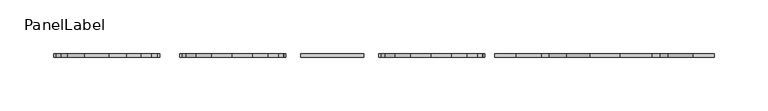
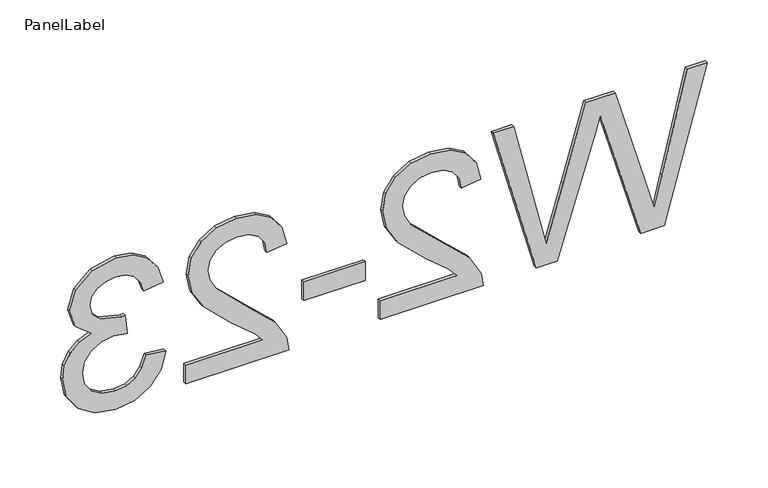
"""IFC4 building model written with IfcOpenShell, lengths in millimetres: fastener geometry, PanelLabel : Miranda."""

import ifcopenshell
import ifcopenshell.guid

model = None  # the IFC model being written
_history = None  # IfcOwnerHistory: only IFC2X3 demands one
_inside = {}  # id of a spatial element -> (the spatial element, [elements in it])
_under = {}  # id of a project, library or spatial element -> (it, [spatial elements below it])
_declared = {}  # id of a project -> (the project, [libraries it declares])
_typed = {}  # id of a type object -> (the type object, [elements of that type])
_made_of = {}  # id of a material, layer set ... -> (it, [elements and type objects made of it])


def new_model(schema):
    """Start an empty IFC model of exactly this schema.

    Asked for "IFC4X3", IfcOpenShell would pick the latest addendum, in which some entities
    have other attributes; the version numbers below select the first issue.
    IFC2X3 requires an IfcOwnerHistory on every rooted entity: one is made here for all.
    """
    global model, _history
    if schema == "IFC4X3":
        model = ifcopenshell.file(schema_version=(4, 3, 0, 0))
    else:
        model = ifcopenshell.file(schema=schema)
    _inside.clear()
    _under.clear()
    _declared.clear()
    _typed.clear()
    _made_of.clear()
    _history = None
    if model.schema == "IFC2X3":
        org = make("IfcOrganization", Name="unknown")
        user = make(
            "IfcPersonAndOrganization",
            ThePerson=make("IfcPerson", FamilyName="unknown"),
            TheOrganization=org,
        )
        app = make(
            "IfcApplication",
            ApplicationDeveloper=org,
            Version="unknown",
            ApplicationFullName="unknown",
            ApplicationIdentifier="unknown",
        )
        _history = make(
            "IfcOwnerHistory",
            OwningUser=user,
            OwningApplication=app,
            ChangeAction="ADDED",
            CreationDate=0,
        )
    return model


def make(cls, **values):
    """One entity of the class cls with the attributes given. An attribute that is None is left unset."""
    return model.create_entity(
        cls, **{name: value for name, value in values.items() if value is not None}
    )


def rooted(cls, **values):
    """An entity with a GlobalId (a new one), such as an element, a storey or a relation."""
    return make(cls, GlobalId=ifcopenshell.guid.new(), OwnerHistory=_history, **values)


def si_unit(unit_type, name, prefix=None):
    """IfcSIUnit, for example si_unit("LENGTHUNIT", "METRE", prefix="MILLI")."""
    return make("IfcSIUnit", UnitType=unit_type, Prefix=prefix, Name=name)


def assignment(units):
    """IfcUnitAssignment: the units of a project."""
    return None if units is None else make("IfcUnitAssignment", Units=units)


def point(xyz):
    """IfcCartesianPoint."""
    return None if xyz is None else make("IfcCartesianPoint", Coordinates=xyz)


def direction(xyz):
    """IfcDirection."""
    return None if xyz is None else make("IfcDirection", DirectionRatios=xyz)


def frame(location, z_axis=None, x_axis=None):
    """IfcAxis2Placement3D, a coordinate frame: its origin and axes. An axis left out is left unset."""
    return make(
        "IfcAxis2Placement3D",
        Location=point(location),
        Axis=direction(z_axis),
        RefDirection=direction(x_axis),
    )


def origin():
    """The frame at (0, 0, 0) with its axes left unset."""
    return frame((0.0, 0.0, 0.0))


def place(relative_to, where):
    """IfcLocalPlacement: puts the frame where relative to a parent placement (None: the world)."""
    return make(
        "IfcLocalPlacement", PlacementRelTo=relative_to, RelativePlacement=where
    )


def context(
    kind, dimensions, precision=None, world=None, true_north=None, identifier=None
):
    """IfcGeometricRepresentationContext, for example the 3D "Model" context."""
    return make(
        "IfcGeometricRepresentationContext",
        ContextIdentifier=identifier,
        ContextType=kind,
        CoordinateSpaceDimension=dimensions,
        Precision=precision,
        WorldCoordinateSystem=world,
        TrueNorth=true_north,
    )


def project(units=None, contexts=None):
    """IfcProject with its units and contexts."""
    return rooted(
        "IfcProject",
        Name="project",
        RepresentationContexts=contexts,
        UnitsInContext=assignment(units),
    )


def spatial(cls, under=None, at=None, **own):
    """A site, building, storey or space (cls), placed at a placement, below another one or the project."""
    s = rooted(cls, ObjectPlacement=at, **own)
    if under is not None:
        _under.setdefault(under.id(), (under, []))[1].append(s)
    return s


def polyline(points):
    """IfcPolyline through the points."""
    return make("IfcPolyline", Points=[point(p) for p in points])


def outline(outer, holes=None, kind="AREA"):
    """IfcArbitraryClosedProfileDef: a profile drawn as a closed curve; with holes, ...WithVoids."""
    if holes is None:
        return make("IfcArbitraryClosedProfileDef", ProfileType=kind, OuterCurve=outer)
    return make(
        "IfcArbitraryProfileDefWithVoids",
        ProfileType=kind,
        OuterCurve=outer,
        InnerCurves=holes,
    )


def extrude(swept, where, along, depth):
    """IfcExtrudedAreaSolid: the profile swept, set in the frame where, extruded along a direction by depth."""
    return make(
        "IfcExtrudedAreaSolid",
        SweptArea=swept,
        Position=where,
        ExtrudedDirection=direction(along),
        Depth=depth,
    )


def shape(context_of_items, identifier, shape_type, items):
    """IfcShapeRepresentation: the items that make up one representation, for example the "Body"."""
    return make(
        "IfcShapeRepresentation",
        ContextOfItems=context_of_items,
        RepresentationIdentifier=identifier,
        RepresentationType=shape_type,
        Items=items,
    )


def source(mapping_origin, context_of_items, identifier, shape_type, items):
    """IfcRepresentationMap: a shape defined once, which mapped items show again and again."""
    return make(
        "IfcRepresentationMap",
        MappingOrigin=mapping_origin,
        MappedRepresentation=shape(context_of_items, identifier, shape_type, items),
    )


def transform(
    local_origin,
    x_axis=None,
    y_axis=None,
    z_axis=None,
    scale=None,
    scale2=None,
    scale3=None,
    uniform=True,
):
    """IfcCartesianTransformationOperator3D, or its non-uniform kind. x_axis, y_axis, z_axis: its Axis1, 2, 3."""
    if uniform:
        return make(
            "IfcCartesianTransformationOperator3D",
            Axis1=direction(x_axis),
            Axis2=direction(y_axis),
            LocalOrigin=point(local_origin),
            Scale=scale,
            Axis3=direction(z_axis),
        )
    return make(
        "IfcCartesianTransformationOperator3DnonUniform",
        Axis1=direction(x_axis),
        Axis2=direction(y_axis),
        LocalOrigin=point(local_origin),
        Scale=scale,
        Axis3=direction(z_axis),
        Scale2=scale2,
        Scale3=scale3,
    )


def mapped(mapping_source, mapping_target):
    """IfcMappedItem: shows the shape of a source again, moved by a transform."""
    return make(
        "IfcMappedItem", MappingSource=mapping_source, MappingTarget=mapping_target
    )


def made_of(thing, what):
    """Note that an element or type object is made of a material, layer set ...; save() writes the relation."""
    if what is not None:
        _made_of.setdefault(what.id(), (what, []))[1].append(thing)
    return thing


def element(
    cls,
    number,
    at=None,
    inside=None,
    cuts=None,
    type_object=None,
    material=None,
    context=None,
    identifier="Body",
    shape_type=None,
    held_by="IfcProductDefinitionShape",
    body=None,
    shapes=None,
    **own,
):
    """One element of the class cls, such as IfcWall. Its Tag is "e" and its number.

    at: its placement. inside: the storey or other place that contains it. cuts: it is an
    opening in that element (IfcRelVoidsElement). A single representation is given by context,
    identifier, shape_type and body (its items); several are given by shapes. held_by: the class
    of the entity that holds the representations. save() writes the other relations.
    """
    e = rooted(cls, Tag="e%d" % number, ObjectPlacement=at, **own)
    if body is not None:
        shapes = [shape(context, identifier, shape_type, body)]
    if shapes is not None:
        e.Representation = make(held_by, Representations=shapes)
    if inside is not None:
        _inside.setdefault(inside.id(), (inside, []))[1].append(e)
    if cuts is not None:
        rooted(
            "IfcRelVoidsElement", RelatingBuildingElement=cuts, RelatedOpeningElement=e
        )
    if type_object is not None:
        _typed.setdefault(type_object.id(), (type_object, []))[1].append(e)
    return made_of(e, material)


def aggregate(whole, parts):
    """IfcRelAggregates: a whole, such as a stair, and the parts it consists of."""
    return rooted("IfcRelAggregates", RelatingObject=whole, RelatedObjects=parts)


def save(model, path):
    """Write the relations noted so far, then the file.

    IfcRelAggregates (storeys below a building ...), IfcRelContainedInSpatialStructure (elements
    in a storey), IfcRelDefinesByType, IfcRelAssociatesMaterial and IfcRelDeclares: one each for
    every whole, place, type object, material and project.
    """
    for whole, parts in _under.values():
        aggregate(whole, parts)
    for where, things in _inside.values():
        rooted(
            "IfcRelContainedInSpatialStructure",
            RelatedElements=things,
            RelatingStructure=where,
        )
    for kind, things in _typed.values():
        rooted("IfcRelDefinesByType", RelatedObjects=things, RelatingType=kind)
    for what, things in _made_of.values():
        rooted("IfcRelAssociatesMaterial", RelatedObjects=things, RelatingMaterial=what)
    for by, libraries in _declared.values():
        rooted("IfcRelDeclares", RelatingContext=by, RelatedDefinitions=libraries)
    model.write(path)


def panellabel_13bba4b9(model_context):
    return source(origin(), model_context, "Body", "SweptSolid", [
        extrude(outline(polyline([(1310.9113766, 268.5683654), (1460.9667612, 309.4892308), (1460.9667612, 290.1461538), (1362.3463766, 266.4069231), (1331.9030112, 259.08), (1358.8294535, 251.2401923), (1460.9667612, 221.4928846), (1460.9667612, 193.6139423), (1386.9282035, 171.9995192), (1331.9030112, 155.9169231), (1361.4671458, 148.8098077), (1460.9667612, 124.8507692), (1460.9667612, 105.5076923), (1310.9113766, 146.4651923), (1310.9113766, 166.5043269), (1426.6767612, 202.4795192), (1442.8326266, 207.4984615), (1423.3796458, 213.1401923), (1310.9113766, 245.9281731), (1310.9113766, 268.5683654)])), frame((0.0, 100.80625, 0.0), z_axis=(0.0, 1.0, 0.0), x_axis=(0.0, 0.0, 1.0)), (0.0, 0.0, 1.0), 3.175),
        extrude(outline(polyline([(1329.6682997, -2.3446154), (1310.9113766, -2.3446154), (1310.9113766, 96.1292308), (1323.8433958, 94.1143269), (1343.7543093, 82.7209615), (1365.4969535, 59.2381731), (1396.7462804, 26.8531731), (1407.5168573, 20.7809856), (1417.9943573, 18.7569231), (1427.3865569, 20.6665024), (1435.1943093, 26.3952404), (1440.4559559, 35.2012861), (1442.2098381, 46.3427885), (1440.4971698, 58.0429688), (1435.359165, 67.1329327), (1427.1988045, 72.9990505), (1416.4190689, 75.0276923), (1418.7636843, 93.7846154), (1436.9069775, 89.2373438), (1450.1595497, 79.4055288), (1458.2649583, 64.8020553), (1460.9667612, 45.9398077), (1457.9627227, 26.9401803), (1448.9506073, 12.3641827), (1435.4873862, 3.0910457), (1419.1300304, 0.0), (1401.3439247, 3.33375), (1382.9533477, 14.4157212), (1357.254165, 41.2872115), (1339.211617, 62.865), (1329.6682997, 71.3275962), (1329.6682997, -2.3446154)])), frame((0.0, 100.80625, 0.0), z_axis=(0.0, 1.0, 0.0), x_axis=(0.0, 0.0, 1.0)), (0.0, 0.0, 1.0), 3.175),
        extrude(outline(polyline([(-75.0276923, 103.98125), (-16.4123077, 103.98125), (-16.4123077, 100.80625), (-75.0276923, 100.80625), (-75.0276923, 103.98125)])), frame((0.0, 0.0, 1355.4590689), z_axis=(0.0, 0.0, 1.0), x_axis=(1.0, 0.0, 0.0)), (0.0, 0.0, 1.0), 18.7569231),
        extrude(outline(polyline([(1329.6682997, -187.5692308), (1310.9113766, -187.5692308), (1310.9113766, -89.0953846), (1323.8433958, -91.1102885), (1343.7543093, -102.5036538), (1365.4969535, -125.9864423), (1396.7462804, -158.3714423), (1407.5168573, -164.4436298), (1417.9943573, -166.4676923), (1427.3865569, -164.558113), (1435.1943093, -158.829375), (1440.4559559, -150.0233293), (1442.2098381, -138.8818269), (1440.4971698, -127.1816466), (1435.359165, -118.0916827), (1427.1988045, -112.2255649), (1416.4190689, -110.1969231), (1418.7636843, -91.44), (1436.9069775, -95.9872716), (1450.1595497, -105.8190865), (1458.2649583, -120.4225601), (1460.9667612, -139.2848077), (1457.9627227, -158.2844351), (1448.9506073, -172.8604327), (1435.4873862, -182.1335697), (1419.1300304, -185.2246154), (1401.3439247, -181.8908654), (1382.9533477, -170.8088942), (1357.254165, -143.9374038), (1339.211617, -122.3596154), (1329.6682997, -113.8970192), (1329.6682997, -187.5692308)])), frame((0.0, 100.80625, 0.0), z_axis=(0.0, 1.0, 0.0), x_axis=(0.0, 0.0, 1.0)), (0.0, 0.0, 1.0), 3.175),
        extrude(outline(polyline([(1350.7698381, -206.3261538), (1353.1144535, -225.0830769), (1341.327266, -229.2823197), (1333.3683958, -235.4323558), (1328.8348622, -243.8354207), (1327.3236843, -254.79375), (1329.4026987, -267.6525), (1335.639742, -277.5804808), (1344.9449343, -283.9274279), (1356.2283958, -286.0430769), (1366.9394415, -283.9457452), (1375.6264247, -277.65375), (1381.3826386, -268.12875), (1383.3013766, -256.3324038), (1381.2498381, -243.1805769), (1400.0067612, -245.26875), (1399.7869535, -248.2727885), (1405.172242, -269.5575), (1412.0045977, -276.6462981), (1421.7310881, -279.0092308), (1429.8319174, -277.2965625), (1436.4032516, -272.1585577), (1440.7581915, -264.31875), (1442.2098381, -254.5006731), (1440.7444535, -244.6642788), (1436.3482997, -236.6229808), (1429.0213766, -230.7522837), (1418.7636843, -227.4276923), (1421.1082997, -208.6707692), (1437.9510641, -214.1934375), (1450.5258958, -224.0206731), (1458.3565448, -237.4655769), (1460.9667612, -253.84125), (1455.8195977, -276.463125), (1441.7519054, -292.2892788), (1422.8301266, -297.7661538), (1405.5385881, -292.5640385), (1393.1194535, -277.1775), (1388.3752708, -288.9188942), (1380.2973381, -297.6196154), (1369.3252708, -303.0049038), (1355.8986843, -304.8), (1337.6180112, -301.2098077), (1322.3413766, -290.4392308), (1312.010415, -274.1826202), (1308.5667612, -254.1343269), (1311.5066891, -236.0001923), (1320.3264727, -221.2364423), (1333.8171698, -210.9695913), (1350.7698381, -206.3261538)])), frame((0.0, 100.80625, 0.0), z_axis=(0.0, 1.0, 0.0), x_axis=(0.0, 0.0, 1.0)), (0.0, 0.0, 1.0), 3.175),
    ])


if __name__ == "__main__":
    model = new_model("IFC4")
    model_context = context("Model", 3, world=origin())
    ifc_project = project(units=[si_unit("LENGTHUNIT", "METRE", prefix="MILLI")], contexts=[model_context])
    site = spatial("IfcSite", under=ifc_project)
    building = spatial("IfcBuilding", under=site)
    placement = place(None, origin())
    panellabel_shape = panellabel_13bba4b9(model_context)
    element("IfcFastener", 1, ObjectType="PanelLabel : Miranda", at=placement, inside=building, context=model_context, shape_type="MappedRepresentation", body=[
        mapped(panellabel_shape, transform((0.0, 0.0, 0.0), x_axis=(1.0, 0.0, 0.0), y_axis=(0.0, 1.0, 0.0), z_axis=(0.0, 0.0, 1.0))),
    ])
    save(model, "model.ifc")
